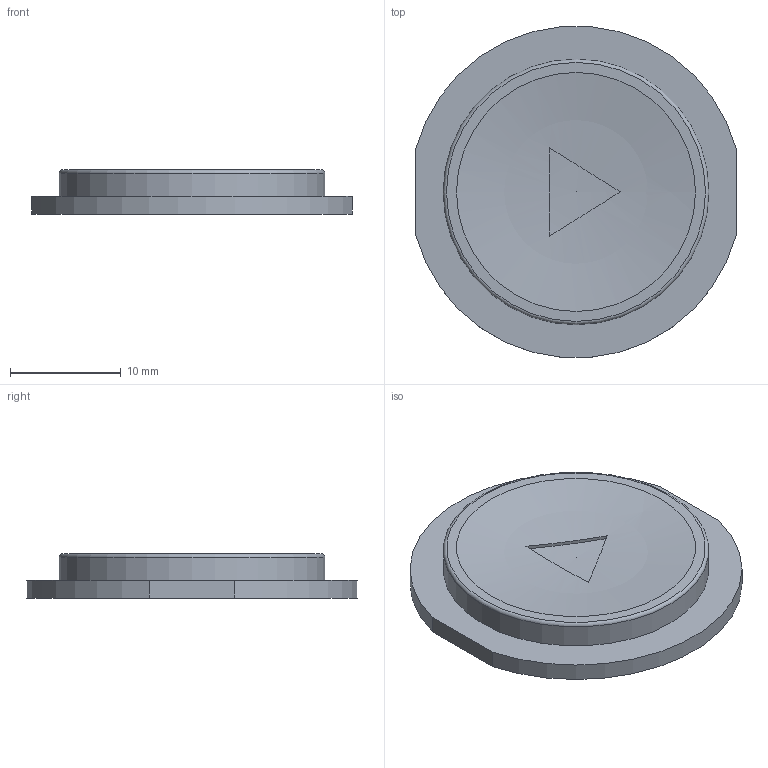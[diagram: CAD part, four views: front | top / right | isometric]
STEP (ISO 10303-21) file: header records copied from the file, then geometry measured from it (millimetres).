
FILE_DESCRIPTION(('Open CASCADE Model'),'2;1');
FILE_NAME('Open CASCADE Shape Model','2026-09-21T11:06:42',('Author'),( 'Open CASCADE'),'Open CASCADE STEP processor 7.7','Open CASCADE 7.7' ,'Unknown');
FILE_SCHEMA(('AUTOMOTIVE_DESIGN { 1 0 10303 214 1 1 1 1 }'));
Length unit declared in the file: millimetre
Products named in the file (1): Open CASCADE STEP translator 7.7 7
Bounding box: 29 x 29.89 x 4 mm (x, y, z)
Volume: 1781.6 mm3; surface area: 1806.4 mm2
Topology: 1 solids, 1 shells, 18 faces, 36 edges, 23 vertices
Faces by surface type: plane 10, cylinder 5, sphere 2, torus 1
Full cylindrical faces by diameter (mm): 4 x1, 19 x1, 24 x1
Entity records: 1291 total; most frequent: CARTESIAN_POINT 549, DIRECTION 140, ORIENTED_EDGE 70, PCURVE 70, DEFINITIONAL_REPRESENTATION 70, LINE 43, VECTOR 43, AXIS2_PLACEMENT_3D 40
